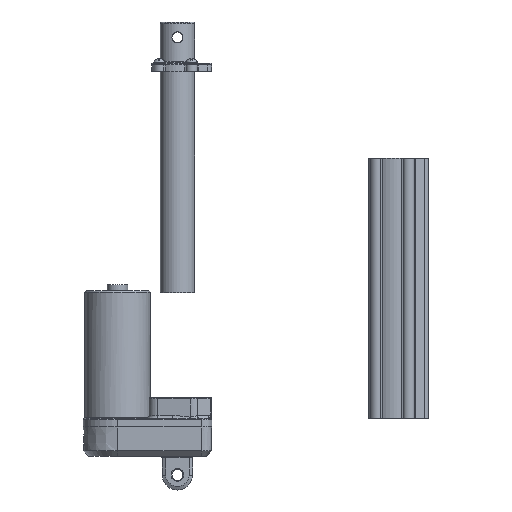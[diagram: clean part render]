
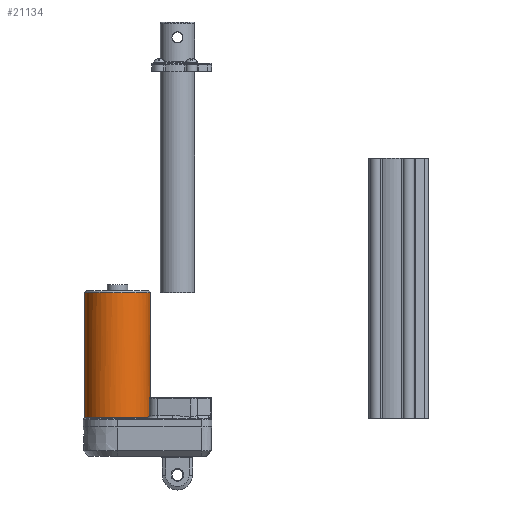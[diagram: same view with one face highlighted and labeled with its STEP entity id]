
A CAD part, front view. The second image highlights one B-rep face of the part: STEP entity #21134.
In plain terms, the highlighted cylindrical face has radius 19 mm (diameter 38 mm), a partial arc.
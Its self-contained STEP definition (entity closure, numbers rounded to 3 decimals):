
#3222=CYLINDRICAL_SURFACE('',#23779,19.);
#3933=LINE('',#30441,#25044);
#3934=LINE('',#30447,#25045);
#5350=VERTEX_POINT('',#30433);
#5351=VERTEX_POINT('',#30434);
#5354=VERTEX_POINT('',#30442);
#5356=VERTEX_POINT('',#30446);
#5709=VERTEX_POINT('',#31770);
#7454=CIRCLE('',#23171,19.);
#7759=CIRCLE('',#23780,19.);
#7760=CIRCLE('',#23781,19.);
#9354=EDGE_CURVE('',#5351,#5354,#3933,.T.);
#9357=EDGE_CURVE('',#5350,#5356,#3934,.T.);
#9808=EDGE_CURVE('',#5354,#5709,#7454,.T.);
#10409=EDGE_CURVE('',#5351,#5350,#7759,.F.);
#10410=EDGE_CURVE('',#5709,#5356,#7760,.T.);
#15645=ORIENTED_EDGE('',*,*,#9354,.F.);
#15646=ORIENTED_EDGE('',*,*,#10409,.T.);
#15647=ORIENTED_EDGE('',*,*,#9357,.T.);
#15648=ORIENTED_EDGE('',*,*,#10410,.F.);
#15649=ORIENTED_EDGE('',*,*,#9808,.F.);
#18576=EDGE_LOOP('',(#15645,#15646,#15647,#15648,#15649));
#19884=FACE_BOUND('',#18576,.T.);
#21134=ADVANCED_FACE('',(#19884),#3222,.T.);
#23171=AXIS2_PLACEMENT_3D('',#31769,#41214,#41215);
#23779=AXIS2_PLACEMENT_3D('',#34474,#42497,#42498);
#23780=AXIS2_PLACEMENT_3D('',#34475,#42499,#42500);
#23781=AXIS2_PLACEMENT_3D('',#34476,#42501,#42502);
#25044=VECTOR('',#40371,1.);
#25045=VECTOR('',#40376,1.);
#30433=CARTESIAN_POINT('',(-19.,0.,73.5));
#30434=CARTESIAN_POINT('',(19.,0.,73.5));
#30441=CARTESIAN_POINT('',(19.,0.,-0.001));
#30442=CARTESIAN_POINT('',(19.,0.,0.5));
#30446=CARTESIAN_POINT('',(-19.,0.,0.5));
#30447=CARTESIAN_POINT('',(-19.,0.,-0.001));
#31769=CARTESIAN_POINT('',(0.,0.,0.5));
#31770=CARTESIAN_POINT('',(18.185,-5.506,0.5));
#34474=CARTESIAN_POINT('',(0.,0.,-0.001));
#34475=CARTESIAN_POINT('',(0.,0.,73.5));
#34476=CARTESIAN_POINT('',(0.,0.,0.5));
#40371=DIRECTION('',(0.,0.,-1.));
#40376=DIRECTION('',(0.,0.,-1.));
#41214=DIRECTION('',(0.,0.,-1.));
#41215=DIRECTION('',(-19.,0.,0.));
#42497=DIRECTION('',(0.,0.,-1.));
#42498=DIRECTION('',(-19.,0.,0.));
#42499=DIRECTION('',(0.,0.,1.));
#42500=DIRECTION('',(19.,0.,0.));
#42501=DIRECTION('',(0.,0.,-1.));
#42502=DIRECTION('',(-19.,0.,0.));
